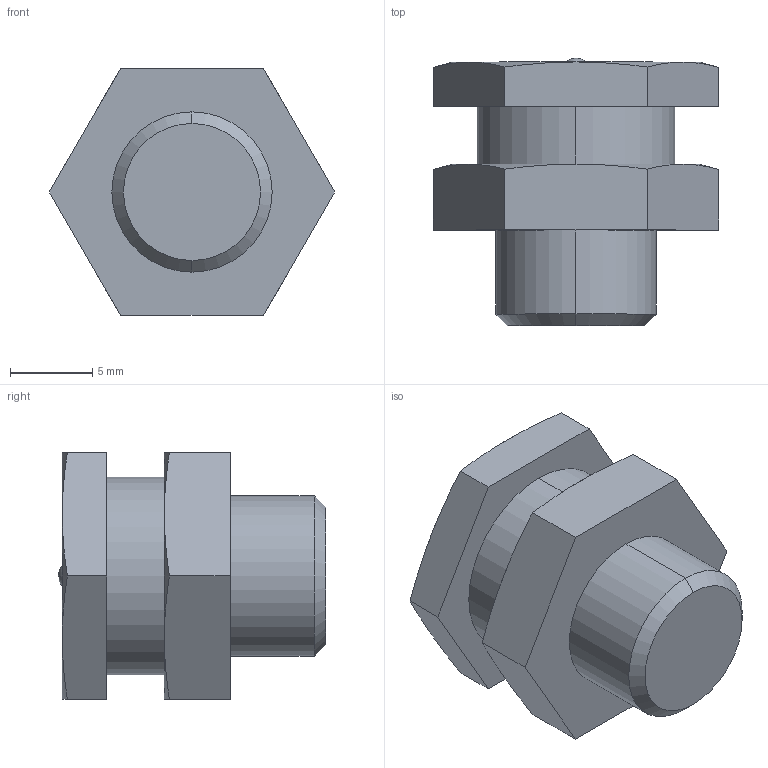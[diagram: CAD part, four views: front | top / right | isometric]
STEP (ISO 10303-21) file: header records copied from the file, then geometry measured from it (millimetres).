
FILE_DESCRIPTION (( 'STEP AP214' ), '1' );
FILE_NAME ('User Library-IT3A1-8GAS.STEP', '2019-07-16T13:39:26', ( '' ), ( '' ), 'SwSTEP 2.0', 'SolidWorks 2019', '' );
FILE_SCHEMA (( 'AUTOMOTIVE_DESIGN' ));
Length unit declared in the file: millimetre
Products named in the file (1): User Library-IT3A1-8GAS
Bounding box: 17.32 x 16.24 x 15 mm (x, y, z)
Volume: 2122 mm3; surface area: 1187.8 mm2
Topology: 1 solids, 1 shells, 37 faces, 80 edges, 49 vertices
Faces by surface type: plane 17, cone 14, cylinder 4, sphere 2
Entity records: 1100 total; most frequent: CARTESIAN_POINT 263, ORIENTED_EDGE 160, DIRECTION 158, EDGE_CURVE 80, AXIS2_PLACEMENT_3D 64, VERTEX_POINT 49, EDGE_LOOP 41, ADVANCED_FACE 37
